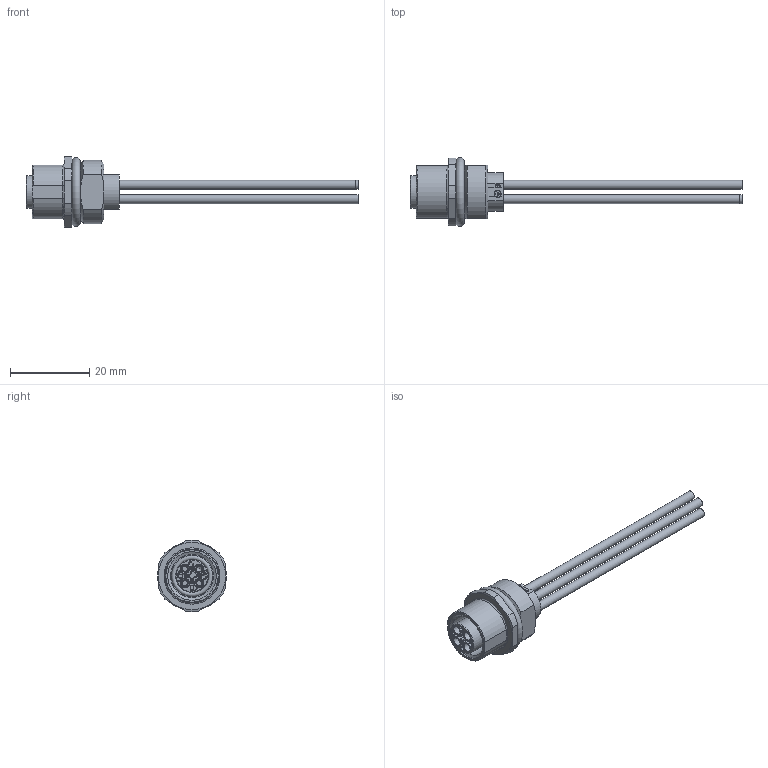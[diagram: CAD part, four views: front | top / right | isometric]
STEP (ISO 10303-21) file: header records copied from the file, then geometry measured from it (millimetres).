
FILE_DESCRIPTION(/* description */ (''),/* implementation_level */ '2;1');
FILE_NAME(/* name */ '09 0692 700 04 001_01.stp',/* time_stamp */ '2013-10-08T10:59:22+02:00',/* author */ (''),/* organization */ (''),/* preprocessor_version */ 'ST-DEVELOPER v14',/* originating_system */ 'SIEMENS PLM Software NX 8.0',/* authorisation */ '');
FILE_SCHEMA (('AUTOMOTIVE_DESIGN { 1 0 10303 214 3 1 1 1 }'));
Length unit declared in the file: millimetre
Products named in the file (1): cerl0C381CD2c7cc
Bounding box: 83.72 x 17.4 x 17.96 mm (x, y, z)
Volume: 3951.1 mm3; surface area: 4749.9 mm2
Topology: 1 solids, 3 shells, 423 faces, 1022 edges, 640 vertices
Faces by surface type: plane 186, cylinder 133, torus 39, cone 27, extrusion 22, sphere 16
Full cylindrical faces by diameter (mm): 1.08 x1, 1.5 x1, 1.6 x8, 1.8 x1, 2.23 x4, 2.25 x4, 2.3 x4, 2.35 x4, 8.3 x2, 10.917 x1, 11 x1, 12.2 x1, 13.3 x2
Entity records: 12557 total; most frequent: CARTESIAN_POINT 3109, DIRECTION 1963, ORIENTED_EDGE 1852, EDGE_CURVE 926, AXIS2_PLACEMENT_3D 737, VERTEX_POINT 601, EDGE_LOOP 518, VECTOR 489
